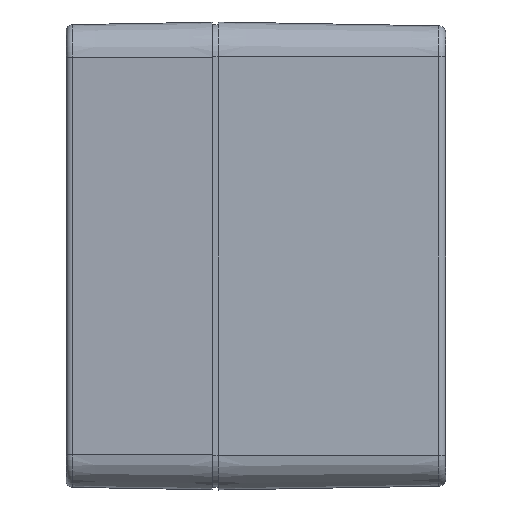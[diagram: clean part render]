
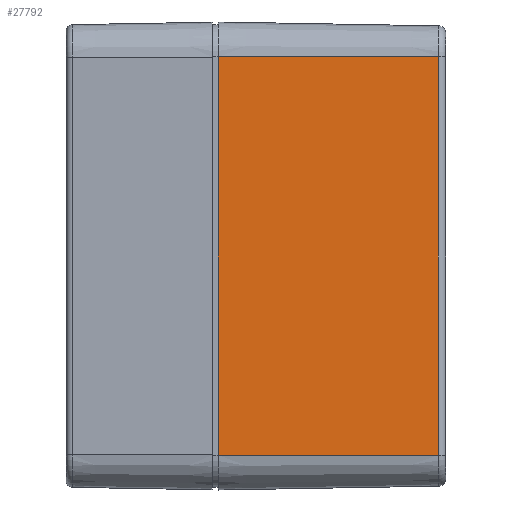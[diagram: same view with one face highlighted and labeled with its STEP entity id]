
A CAD part, left-side view. The second image highlights one B-rep face of the part: STEP entity #27792.
In plain terms, the highlighted planar face has unit normal (-1, -0.018, 0).
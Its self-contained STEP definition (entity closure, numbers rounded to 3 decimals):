
#27 = DIRECTION ( 'NONE',  ( 0.017, -1., 0. ) ) ;
#469 = VERTEX_POINT ( 'NONE', #39500 ) ;
#680 = CARTESIAN_POINT ( 'NONE',  ( -59.375, -38.672, -34.05 ) ) ;
#2787 = AXIS2_PLACEMENT_3D ( 'NONE', #6775, #3043, #27 ) ;
#3043 = DIRECTION ( 'NONE',  ( -1., -0.017, 0. ) ) ;
#3516 = ORIENTED_EDGE ( 'NONE', *, *, #30055, .F. ) ;
#3949 = EDGE_CURVE ( 'NONE', #19766, #28606, #10110, .T. ) ;
#4398 = ORIENTED_EDGE ( 'NONE', *, *, #3949, .T. ) ;
#6775 = CARTESIAN_POINT ( 'NONE',  ( -60.05, 0., 34.05 ) ) ;
#8096 = VERTEX_POINT ( 'NONE', #680 ) ;
#8332 = LINE ( 'NONE', #12818, #29963 ) ;
#9304 = LINE ( 'NONE', #17249, #17229 ) ;
#10110 = LINE ( 'NONE', #29276, #46443 ) ;
#12818 = CARTESIAN_POINT ( 'NONE',  ( -59.375, -38.672, 34.05 ) ) ;
#14475 = PLANE ( 'NONE',  #2787 ) ;
#17229 = VECTOR ( 'NONE', #24729, 1000. ) ;
#17249 = CARTESIAN_POINT ( 'NONE',  ( -60.05, 0., -34.05 ) ) ;
#19766 = VERTEX_POINT ( 'NONE', #34646 ) ;
#19934 = LINE ( 'NONE', #31157, #24254 ) ;
#20163 = EDGE_LOOP ( 'NONE', ( #27414, #4398, #3516, #39971 ) ) ;
#21538 = DIRECTION ( 'NONE',  ( 0., 0., -1. ) ) ;
#24254 = VECTOR ( 'NONE', #34382, 1000. ) ;
#24729 = DIRECTION ( 'NONE',  ( -0.017, 1., 0. ) ) ;
#27414 = ORIENTED_EDGE ( 'NONE', *, *, #27966, .T. ) ;
#27792 = ADVANCED_FACE ( 'NONE', ( #37376 ), #14475, .T. ) ;
#27966 = EDGE_CURVE ( 'NONE', #469, #19766, #19934, .T. ) ;
#28606 = VERTEX_POINT ( 'NONE', #42206 ) ;
#29276 = CARTESIAN_POINT ( 'NONE',  ( -60.033, -1., 34.05 ) ) ;
#29963 = VECTOR ( 'NONE', #31748, 1000. ) ;
#30055 = EDGE_CURVE ( 'NONE', #8096, #28606, #9304, .T. ) ;
#31157 = CARTESIAN_POINT ( 'NONE',  ( -60.05, 0., 34.05 ) ) ;
#31748 = DIRECTION ( 'NONE',  ( 0., 0., 1. ) ) ;
#33801 = EDGE_CURVE ( 'NONE', #8096, #469, #8332, .T. ) ;
#34382 = DIRECTION ( 'NONE',  ( -0.017, 1., 0. ) ) ;
#34646 = CARTESIAN_POINT ( 'NONE',  ( -60.033, -1., 34.05 ) ) ;
#37376 = FACE_OUTER_BOUND ( 'NONE', #20163, .T. ) ;
#39500 = CARTESIAN_POINT ( 'NONE',  ( -59.375, -38.672, 34.05 ) ) ;
#39971 = ORIENTED_EDGE ( 'NONE', *, *, #33801, .T. ) ;
#42206 = CARTESIAN_POINT ( 'NONE',  ( -60.033, -1., -34.05 ) ) ;
#46443 = VECTOR ( 'NONE', #21538, 1000. ) ;
